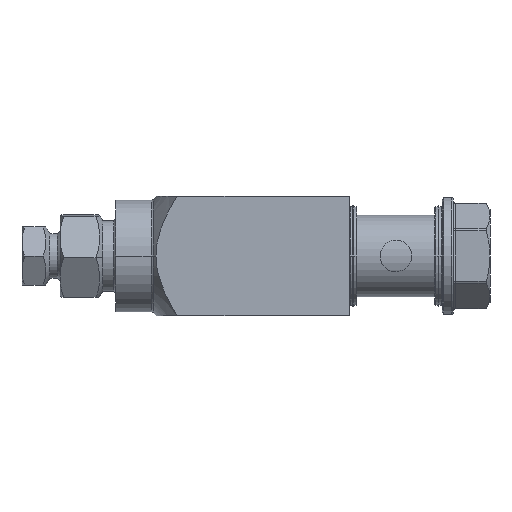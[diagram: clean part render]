
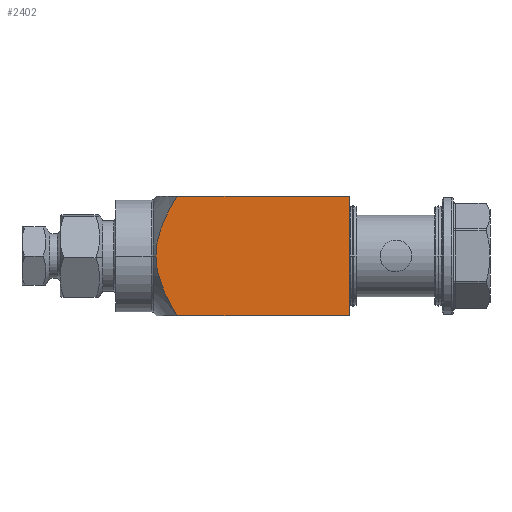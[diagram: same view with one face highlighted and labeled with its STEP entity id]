
A CAD part, left-side view. The second image highlights one B-rep face of the part: STEP entity #2402.
In plain terms, the highlighted planar face has unit normal (-1, 0, 0).
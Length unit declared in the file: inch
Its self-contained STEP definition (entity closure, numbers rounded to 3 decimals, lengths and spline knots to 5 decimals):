
#2084=DIRECTION('',(0.,0.,1.));
#2085=VECTOR('',#2084,0.644);
#2086=CARTESIAN_POINT('',(-0.32,0.25,-0.322));
#2087=LINE('',#2086,#2085);
#2114=DIRECTION('',(0.,1.,0.));
#2115=VECTOR('',#2114,0.93081);
#2116=CARTESIAN_POINT('',(-0.32,0.25,-0.322));
#2117=LINE('',#2116,#2115);
#2118=CARTESIAN_POINT('',(-0.32,1.18081,-0.322));
#2119=CARTESIAN_POINT('',(-0.32,1.19244,-0.30245));
#2120=CARTESIAN_POINT('',(-0.32,1.21362,-0.26508));
#2121=CARTESIAN_POINT('',(-0.32,1.23896,-0.2147));
#2122=CARTESIAN_POINT('',(-0.32,1.25879,-0.1687));
#2123=CARTESIAN_POINT('',(-0.32,1.27396,-0.12543));
#2124=CARTESIAN_POINT('',(-0.32,1.28495,-0.08338));
#2125=CARTESIAN_POINT('',(-0.32,1.29169,-0.04169));
#2126=CARTESIAN_POINT('',(-0.32,1.29322,-0.01389));
#2127=CARTESIAN_POINT('',(-0.32,1.29322,0.));
#2129=CARTESIAN_POINT('',(-0.32,1.29322,0.));
#2130=CARTESIAN_POINT('',(-0.32,1.29322,0.01392));
#2131=CARTESIAN_POINT('',(-0.32,1.29168,0.04179));
#2132=CARTESIAN_POINT('',(-0.32,1.28491,0.08355));
#2133=CARTESIAN_POINT('',(-0.32,1.2739,0.12565));
#2134=CARTESIAN_POINT('',(-0.32,1.25871,0.1689));
#2135=CARTESIAN_POINT('',(-0.32,1.23889,0.21484));
#2136=CARTESIAN_POINT('',(-0.32,1.21358,0.26516));
#2137=CARTESIAN_POINT('',(-0.32,1.19243,0.30248));
#2138=CARTESIAN_POINT('',(-0.32,1.18081,0.322));
#2140=DIRECTION('',(0.,1.,0.));
#2141=VECTOR('',#2140,0.93081);
#2142=CARTESIAN_POINT('',(-0.32,0.25,0.322));
#2143=LINE('',#2142,#2141);
#2300=CARTESIAN_POINT('',(-0.32,0.25,-0.322));
#2301=CARTESIAN_POINT('',(-0.32,0.25,0.322));
#2302=VERTEX_POINT('',#2300);
#2303=VERTEX_POINT('',#2301);
#2304=CARTESIAN_POINT('',(-0.32,1.18081,-0.322));
#2305=VERTEX_POINT('',#2304);
#2306=CARTESIAN_POINT('',(-0.32,1.18081,0.322));
#2307=VERTEX_POINT('',#2306);
#2313=VERTEX_POINT('',#2127);
#2387=CARTESIAN_POINT('',(-0.32,0.25,-0.322));
#2388=DIRECTION('',(-1.,0.,0.));
#2389=DIRECTION('',(0.,0.,1.));
#2390=AXIS2_PLACEMENT_3D('',#2387,#2388,#2389);
#2391=PLANE('',#2390);
#2392=ORIENTED_EDGE('',*,*,#2377,.T.);
#2394=ORIENTED_EDGE('',*,*,#2393,.T.);
#2396=ORIENTED_EDGE('',*,*,#2395,.T.);
#2398=ORIENTED_EDGE('',*,*,#2397,.F.);
#2399=ORIENTED_EDGE('',*,*,#2365,.F.);
#2400=EDGE_LOOP('',(#2392,#2394,#2396,#2398,#2399));
#2401=FACE_OUTER_BOUND('',#2400,.F.);
#2402=ADVANCED_FACE('',(#2401),#2391,.T.);
#2128=B_SPLINE_CURVE_WITH_KNOTS('',3,(#2118,#2119,#2120,#2121,#2122,#2123,#2124,
#2125,#2126,#2127),.UNSPECIFIED.,.F.,.F.,(4,1,1,1,1,1,1,4),(0.,
0.14286,0.28571,0.42857,0.57143,
0.71429,0.85714,1.),.UNSPECIFIED.);
#2139=B_SPLINE_CURVE_WITH_KNOTS('',3,(#2129,#2130,#2131,#2132,#2133,#2134,#2135,
#2136,#2137,#2138),.UNSPECIFIED.,.F.,.F.,(4,1,1,1,1,1,1,4),(0.,
0.14286,0.28571,0.42857,0.57143,
0.71429,0.85714,1.),.UNSPECIFIED.);
#2365=EDGE_CURVE('',#2302,#2303,#2087,.T.);
#2377=EDGE_CURVE('',#2302,#2305,#2117,.T.);
#2393=EDGE_CURVE('',#2305,#2313,#2128,.T.);
#2395=EDGE_CURVE('',#2313,#2307,#2139,.T.);
#2397=EDGE_CURVE('',#2303,#2307,#2143,.T.);
